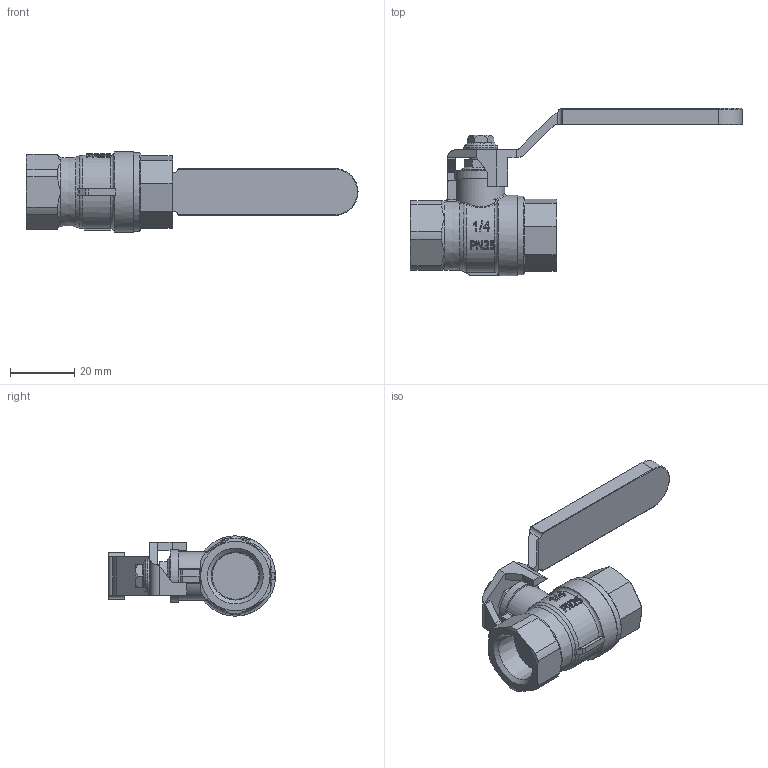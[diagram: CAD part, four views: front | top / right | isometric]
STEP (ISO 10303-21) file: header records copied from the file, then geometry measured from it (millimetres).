
FILE_DESCRIPTION((''),'2;1');
FILE_NAME('P:\Fastrack\53972_CRANE 3D\Ball Valves\Workplace\Crane Ball Valves\D171_1-4in\D171_1-4in.stp','2011-02-09T14:32:28',('btaylor'),(''),'Autodesk Inventor 2008','Autodesk Inventor 2008','');
FILE_SCHEMA(('AUTOMOTIVE_DESIGN { 1 0 10303 214 1 1 1 1 }'));
Length unit declared in the file: millimetre
Products named in the file (1): D171_1-4in
Bounding box: 103.35 x 52 x 25 mm (x, y, z)
Volume: 23948.9 mm3; surface area: 9695.3 mm2
Topology: 1 solids, 1 shells, 1121 faces, 2999 edges, 1974 vertices
Faces by surface type: plane 660, bspline 355, cylinder 68, cone 29, torus 9
Full cylindrical faces by diameter (mm): 7 x1, 10.5 x1, 12 x1, 16.2 x1, 24.5 x1, 25 x1
Entity records: 59057 total; most frequent: CARTESIAN_POINT 33387, ORIENTED_EDGE 5936, DIRECTION 3843, EDGE_CURVE 2968, VERTEX_POINT 1968, VECTOR 1865, LINE 1865, EDGE_LOOP 1240
